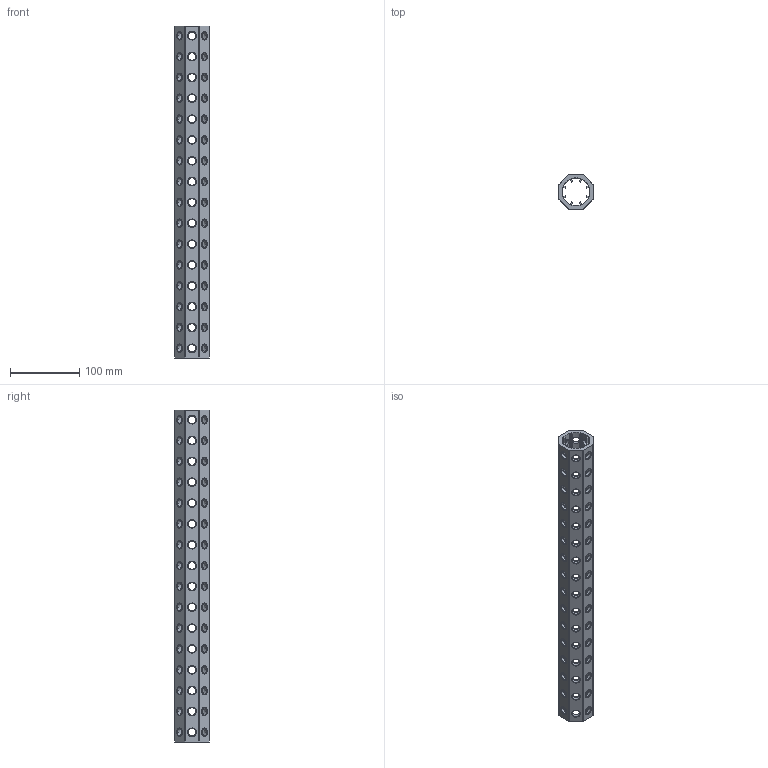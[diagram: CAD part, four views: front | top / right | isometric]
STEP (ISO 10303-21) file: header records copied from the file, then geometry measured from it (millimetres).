
FILE_DESCRIPTION(('CATIA V5 STEP Exchange'),'2;1');
FILE_NAME('U:\Room\唐宝山\EGT002\46-01-010245-01-EGT002-478.stp','2021-08-24T01:01:41+00:00',('none'),('none'),'CATIA Version 5 Release 21 GA (IN-10)','CATIA V5 STEP AP203','none');
FILE_SCHEMA(('CONFIG_CONTROL_DESIGN'));
Length unit declared in the file: millimetre
Products named in the file (1): 46-01-010245-01-EGT002-478
Bounding box: 50 x 50 x 478 mm (x, y, z)
Volume: 340371.2 mm3; surface area: 165469.6 mm2
Topology: 1 solids, 1 shells, 724 faces, 2006 edges, 1252 vertices
Faces by surface type: cone 384, cylinder 314, plane 26
Entity records: 29403 total; most frequent: CARTESIAN_POINT 11770, ORIENTED_EDGE 4012, DIRECTION 2842, EDGE_CURVE 2006, AXIS2_PLACEMENT_3D 1317, VERTEX_POINT 1252, EDGE_LOOP 950, VECTOR 802
